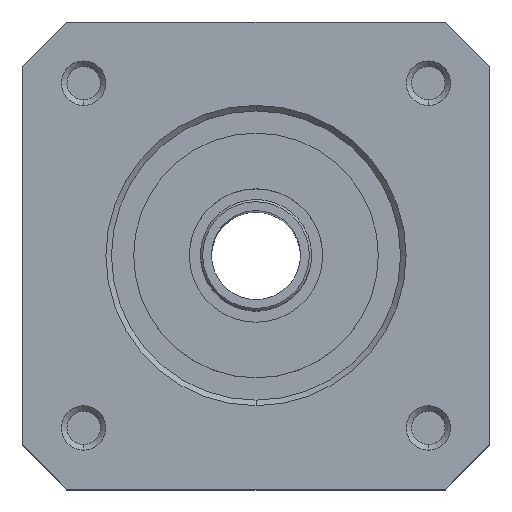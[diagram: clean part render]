
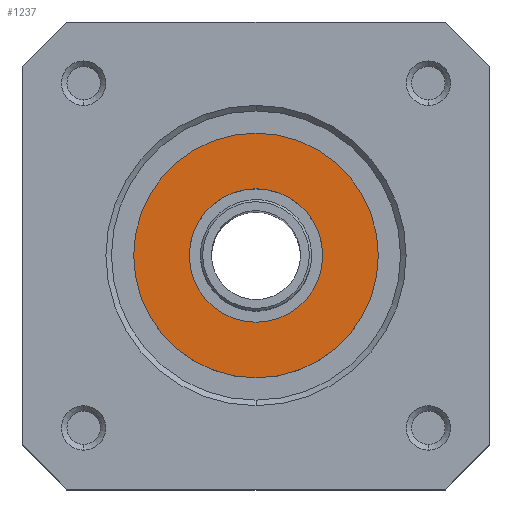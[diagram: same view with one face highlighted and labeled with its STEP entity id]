
A CAD part, top view. The second image highlights one B-rep face of the part: STEP entity #1237.
In plain terms, the highlighted planar face has unit normal (0, 0, 1) as drawn and (0, 0, -1) by its records, which use the part's own axes.
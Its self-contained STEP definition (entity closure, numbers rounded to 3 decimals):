
#207 = VERTEX_POINT ( 'NONE', #3184 ) ;
#691 = AXIS2_PLACEMENT_3D ( 'NONE', #4171, #4185, #4180 ) ;
#772 = VERTEX_POINT ( 'NONE', #4860 ) ;
#1084 = CIRCLE ( 'NONE', #5030, 11. ) ;
#1143 = CARTESIAN_POINT ( 'NONE',  ( 0., 0., -2. ) ) ;
#1221 = ORIENTED_EDGE ( 'NONE', *, *, #5379, .F. ) ;
#1237 = ADVANCED_FACE ( 'NONE', ( #5468, #5426 ), #5477, .T. ) ;
#1290 = AXIS2_PLACEMENT_3D ( 'NONE', #4142, #4127, #4088 ) ;
#1444 = ORIENTED_EDGE ( 'NONE', *, *, #3513, .F. ) ;
#1473 = AXIS2_PLACEMENT_3D ( 'NONE', #4063, #4057, #4071 ) ;
#1646 = AXIS2_PLACEMENT_3D ( 'NONE', #3857, #3892, #3885 ) ;
#1756 = ORIENTED_EDGE ( 'NONE', *, *, #3541, .F. ) ;
#2019 = ORIENTED_EDGE ( 'NONE', *, *, #3569, .F. ) ;
#2114 = EDGE_LOOP ( 'NONE', ( #1221, #1444 ) ) ;
#2685 = CARTESIAN_POINT ( 'NONE',  ( -6., 0., -2. ) ) ;
#3112 = CIRCLE ( 'NONE', #1473, 6. ) ;
#3145 = CIRCLE ( 'NONE', #1646, 11. ) ;
#3156 = CIRCLE ( 'NONE', #691, 6. ) ;
#3184 = CARTESIAN_POINT ( 'NONE',  ( 6., 0., -2. ) ) ;
#3194 = CARTESIAN_POINT ( 'NONE',  ( 11., 0., -2. ) ) ;
#3196 = DIRECTION ( 'NONE',  ( 1., 0., 0. ) ) ;
#3513 = EDGE_CURVE ( 'NONE', #772, #6163, #3145, .T. ) ;
#3541 = EDGE_CURVE ( 'NONE', #4194, #207, #3112, .T. ) ;
#3569 = EDGE_CURVE ( 'NONE', #207, #4194, #3156, .T. ) ;
#3857 = CARTESIAN_POINT ( 'NONE',  ( 0., 0., -2. ) ) ;
#3885 = DIRECTION ( 'NONE',  ( 1., 0., 0. ) ) ;
#3892 = DIRECTION ( 'NONE',  ( 0., 0., 1. ) ) ;
#4057 = DIRECTION ( 'NONE',  ( 0., 0., -1. ) ) ;
#4063 = CARTESIAN_POINT ( 'NONE',  ( 0., 0., -2. ) ) ;
#4071 = DIRECTION ( 'NONE',  ( -1., 0., 0. ) ) ;
#4088 = DIRECTION ( 'NONE',  ( -1., 0., 0. ) ) ;
#4127 = DIRECTION ( 'NONE',  ( 0., 0., -1. ) ) ;
#4142 = CARTESIAN_POINT ( 'NONE',  ( 0., 0., -2. ) ) ;
#4171 = CARTESIAN_POINT ( 'NONE',  ( 0., 0., -2. ) ) ;
#4180 = DIRECTION ( 'NONE',  ( -1., 0., 0. ) ) ;
#4185 = DIRECTION ( 'NONE',  ( 0., 0., -1. ) ) ;
#4194 = VERTEX_POINT ( 'NONE', #2685 ) ;
#4689 = DIRECTION ( 'NONE',  ( 0., 0., 1. ) ) ;
#4860 = CARTESIAN_POINT ( 'NONE',  ( -11., 0., -2. ) ) ;
#5030 = AXIS2_PLACEMENT_3D ( 'NONE', #1143, #4689, #3196 ) ;
#5379 = EDGE_CURVE ( 'NONE', #6163, #772, #1084, .T. ) ;
#5426 = FACE_BOUND ( 'NONE', #6166, .T. ) ;
#5468 = FACE_OUTER_BOUND ( 'NONE', #2114, .T. ) ;
#5477 = PLANE ( 'NONE',  #1290 ) ;
#6163 = VERTEX_POINT ( 'NONE', #3194 ) ;
#6166 = EDGE_LOOP ( 'NONE', ( #1756, #2019 ) ) ;
